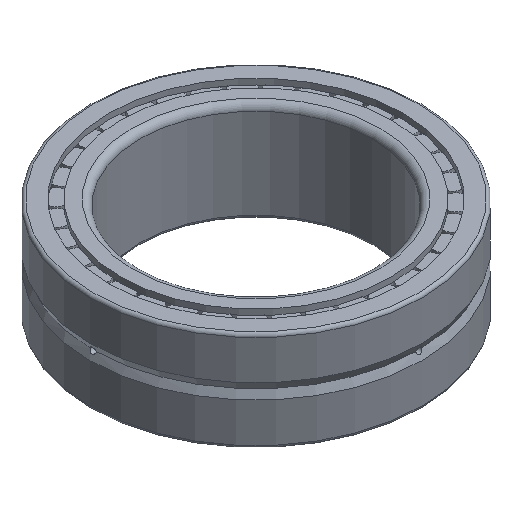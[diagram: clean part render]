
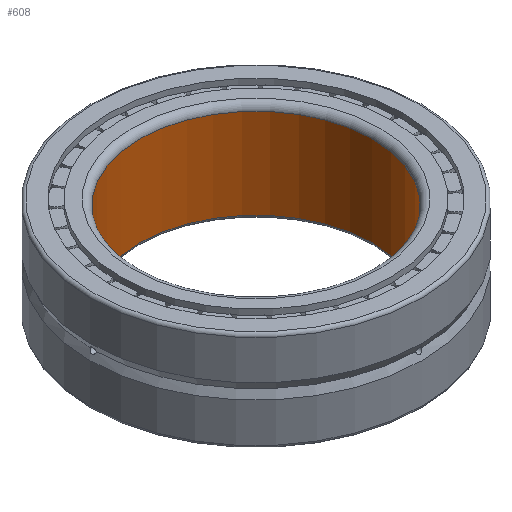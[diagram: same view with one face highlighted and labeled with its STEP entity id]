
A CAD part, isometric view. The second image highlights one B-rep face of the part: STEP entity #608.
In plain terms, the highlighted cylindrical face has radius 35 mm (diameter 70 mm), a full revolution.
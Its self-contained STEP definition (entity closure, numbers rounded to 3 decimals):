
#211=FACE_BOUND('',#290,.T.);
#246=FACE_OUTER_BOUND('',#289,.T.);
#289=EDGE_LOOP('',(#495));
#290=EDGE_LOOP('',(#496));
#361=CIRCLE('',#658,35.);
#362=CIRCLE('',#660,35.);
#399=VERTEX_POINT('',#1018);
#400=VERTEX_POINT('',#1021);
#443=EDGE_CURVE('',#399,#399,#361,.T.);
#444=EDGE_CURVE('',#400,#400,#362,.T.);
#495=ORIENTED_EDGE('',*,*,#443,.T.);
#496=ORIENTED_EDGE('',*,*,#444,.F.);
#589=CYLINDRICAL_SURFACE('',#659,35.);
#608=ADVANCED_FACE('',(#246,#211),#589,.F.);
#658=AXIS2_PLACEMENT_3D('',#1019,#787,#788);
#659=AXIS2_PLACEMENT_3D('',#1020,#789,#790);
#660=AXIS2_PLACEMENT_3D('',#1022,#791,#792);
#787=DIRECTION('center_axis',(0.,0.,-1.));
#788=DIRECTION('ref_axis',(1.,0.,0.));
#789=DIRECTION('center_axis',(0.,0.,-1.));
#790=DIRECTION('ref_axis',(0.,1.,0.));
#791=DIRECTION('center_axis',(0.,0.,-1.));
#792=DIRECTION('ref_axis',(1.,0.,0.));
#1018=CARTESIAN_POINT('',(0.,35.,-86.521));
#1019=CARTESIAN_POINT('Origin',(0.,0.,-86.521));
#1020=CARTESIAN_POINT('Origin',(0.,0.,-72.971));
#1021=CARTESIAN_POINT('',(0.,35.,-59.421));
#1022=CARTESIAN_POINT('Origin',(0.,0.,-59.421));
